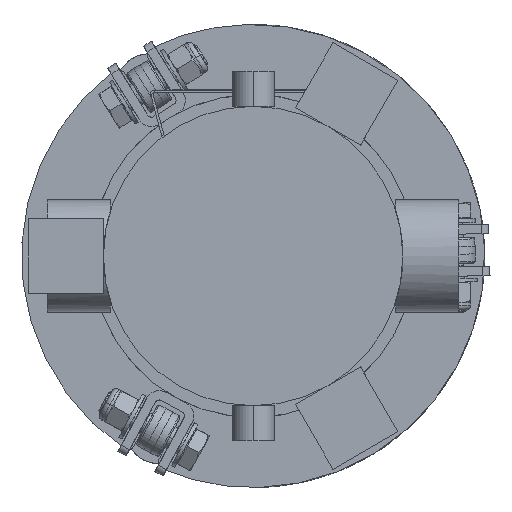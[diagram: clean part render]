
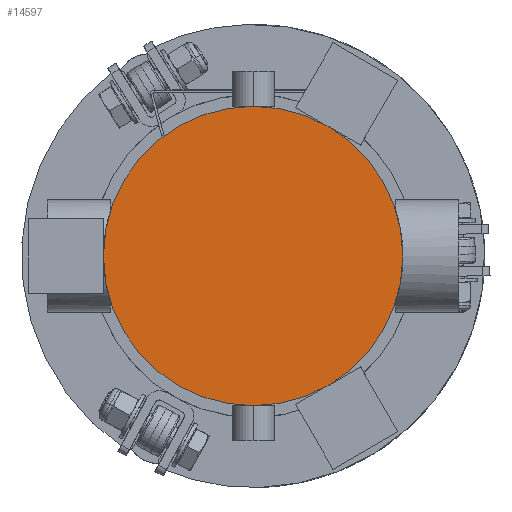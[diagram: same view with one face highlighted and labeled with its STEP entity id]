
A CAD part, front view. The second image highlights one B-rep face of the part: STEP entity #14597.
In plain terms, the highlighted planar face has unit normal (0, -1, 0).
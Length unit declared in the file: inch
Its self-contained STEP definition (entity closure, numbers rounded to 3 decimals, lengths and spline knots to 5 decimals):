
#159 = AXIS2_PLACEMENT_3D ( 'NONE', #7011, #13055, #2333 ) ;
#647 = EDGE_CURVE ( 'NONE', #808, #7941, #18495, .T. ) ;
#808 = VERTEX_POINT ( 'NONE', #6617 ) ;
#1137 = CARTESIAN_POINT ( 'NONE',  ( 0., -16.5, 4. ) ) ;
#2333 = DIRECTION ( 'NONE',  ( 0., 0., 1. ) ) ;
#2353 = EDGE_CURVE ( 'NONE', #7941, #808, #2428, .T. ) ;
#2428 = CIRCLE ( 'NONE', #16696, 4. ) ;
#3334 = DIRECTION ( 'NONE',  ( 0., 0., 1. ) ) ;
#6239 = EDGE_LOOP ( 'NONE', ( #8886, #9915 ) ) ;
#6617 = CARTESIAN_POINT ( 'NONE',  ( 0., -16.5, -4. ) ) ;
#7011 = CARTESIAN_POINT ( 'NONE',  ( 0., -16.5, 0. ) ) ;
#7941 = VERTEX_POINT ( 'NONE', #1137 ) ;
#8788 = CARTESIAN_POINT ( 'NONE',  ( 0., -16.5, 0. ) ) ;
#8886 = ORIENTED_EDGE ( 'NONE', *, *, #647, .F. ) ;
#9915 = ORIENTED_EDGE ( 'NONE', *, *, #2353, .F. ) ;
#10076 = PLANE ( 'NONE',  #159 ) ;
#13055 = DIRECTION ( 'NONE',  ( 0., 1., 0. ) ) ;
#13352 = DIRECTION ( 'NONE',  ( 0., 0., 1. ) ) ;
#13855 = CARTESIAN_POINT ( 'NONE',  ( 0., -16.5, 0. ) ) ;
#14597 = ADVANCED_FACE ( 'NONE', ( #15942 ), #10076, .F. ) ;
#14847 = DIRECTION ( 'NONE',  ( 0., 1., 0. ) ) ;
#15145 = DIRECTION ( 'NONE',  ( 0., 1., 0. ) ) ;
#15942 = FACE_OUTER_BOUND ( 'NONE', #6239, .T. ) ;
#16696 = AXIS2_PLACEMENT_3D ( 'NONE', #8788, #14847, #13352 ) ;
#18495 = CIRCLE ( 'NONE', #19439, 4. ) ;
#19439 = AXIS2_PLACEMENT_3D ( 'NONE', #13855, #15145, #3334 ) ;
